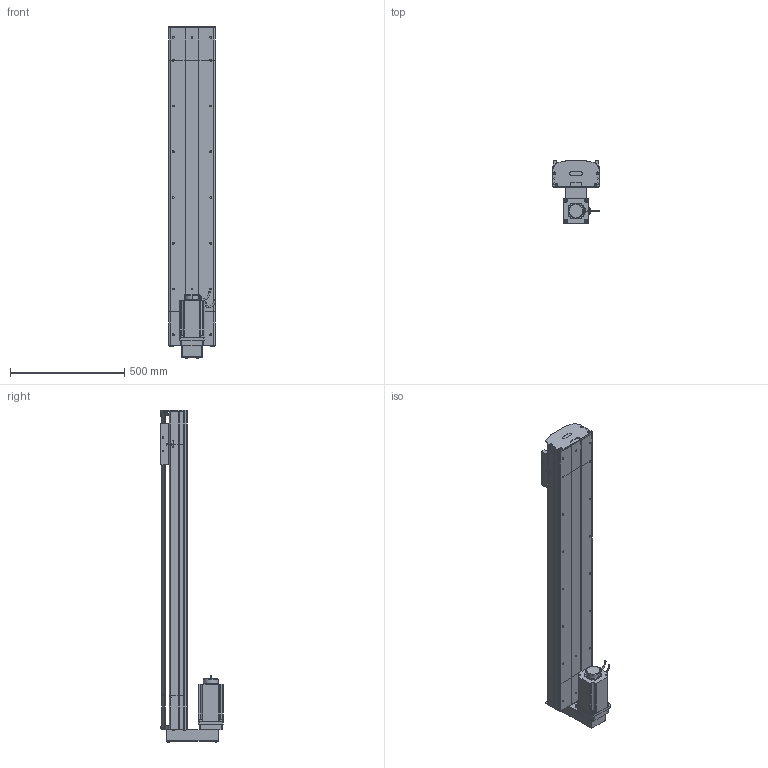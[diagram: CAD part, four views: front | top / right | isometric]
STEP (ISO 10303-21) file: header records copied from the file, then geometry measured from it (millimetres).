
FILE_DESCRIPTION (( 'STEP AP214' ), '1' );
FILE_NAME ('D20 TSH BM S1100.STEP', '2010-06-30T08:40:42', ( 'Conseil Régional Haute-Normandie' ), ( 'Conseil Régional Haute-Normandie' ), 'SwSTEP 2.0', 'SolidWorks 2010', '' );
FILE_SCHEMA (( 'AUTOMOTIVE_DESIGN' ));
Length unit declared in the file: millimetre
Products named in the file (35): avant 110BLDC170A-630x; guide D20; codeur 110BLDC170A-630x; clavette; Conecteur2_Default; corps 110BLDC170A-630x; Conecteur_Default; vis M5 L25_Default; vis M5 L8 90°_Default; corpl tail D20 +100_Default; tete d''axe haut D20; vis M5 L70_Default; renvoi  BM_Default; couvercle tail D20_Default; plaque de  bout tail D20_Default; Arbre+rail tail D20; Chariot D20; tete d''axe bas D20; chariot D20S_Default; tail D20 +100_Default; 2 vis M5 L12_Default; vis M8 L12_Default; vis M5 L12_Default; rail + arbre  D20 S1100; corpl head MD D20_Default; Moteur motionking 110BLDC170A-640x; Plaque racord D20_Default; couvercle head l D20_Default; Arbre+rail head D20; plaque de  bout head BR D20_Default; couvercle D20 S1100_Default; head BM D20_Default; corp D20 S1100_Default; course D20 L1100_Default; D20 TSH BM S1100
Assembly tree (59 placements, depth 4):
  D20 TSH BM S1100
    head BM D20_Default
      2 vis M5 L12_Default  x6
      vis M8 L12_Default  x4
      Moteur motionking 110BLDC170A-640x
        corps 110BLDC170A-630x
        clavette
        avant 110BLDC170A-630x
        Conecteur2_Default
        Conecteur_Default
        codeur 110BLDC170A-630x
      couvercle head l D20_Default
      renvoi  BM_Default
      Plaque racord D20_Default
      corpl head MD D20_Default
      vis M5 L25_Default  x2
      vis M5 L12_Default  x2
      vis M5 L70_Default  x4
      plaque de  bout head BR D20_Default
      Arbre+rail head D20
    chariot D20S_Default
      vis M5 L12_Default  x4
      guide D20  x2
      Chariot D20
    course D20 L1100_Default
      couvercle D20 S1100_Default
      rail + arbre  D20 S1100
      corp D20 S1100_Default
    tail D20 +100_Default
      vis M5 L8 90°_Default  x2
      vis M5 L25_Default  x2
      couvercle tail D20_Default
      2 vis M5 L12_Default  x4
      tete d''axe haut D20
      corpl tail D20 +100_Default
      plaque de  bout tail D20_Default
      tete d''axe bas D20
      Arbre+rail tail D20
Bounding box: 206 x 273.7 x 1451.7 mm (x, y, z)
Volume: 13830493.1 mm3; surface area: 2903506.1 mm2
Topology: 84 solids, 84 shells, 2348 faces, 5939 edges, 3837 vertices
Faces by surface type: plane 1392, cylinder 668, bspline 136, torus 77, cone 71, sphere 4
Entity records: 77040 total; most frequent: CARTESIAN_POINT 25332, ORIENTED_EDGE 9174, DIRECTION 8612, EDGE_CURVE 4587, VERTEX_POINT 3019, VECTOR 3006, LINE 3006, AXIS2_PLACEMENT_3D 2803
